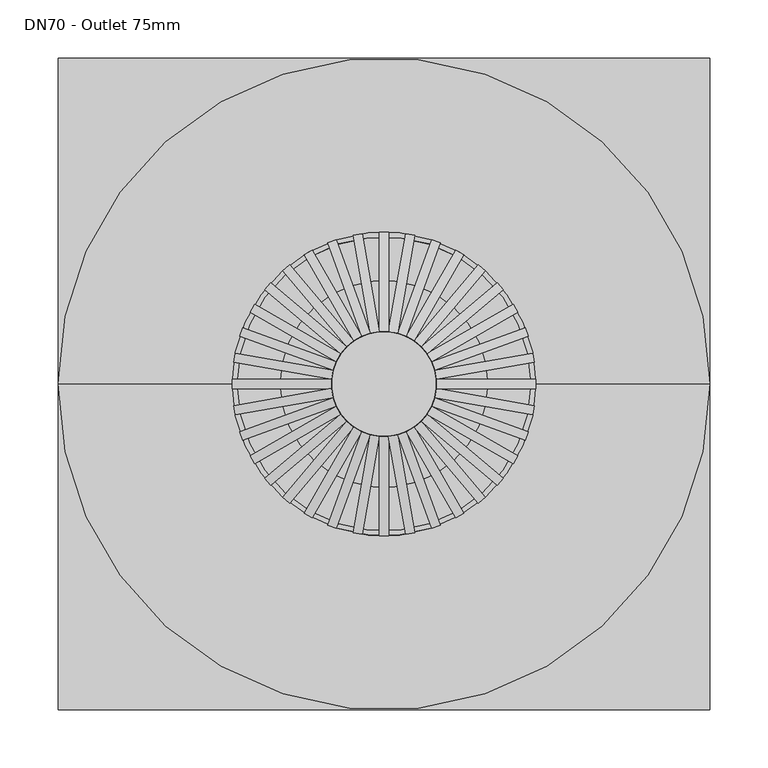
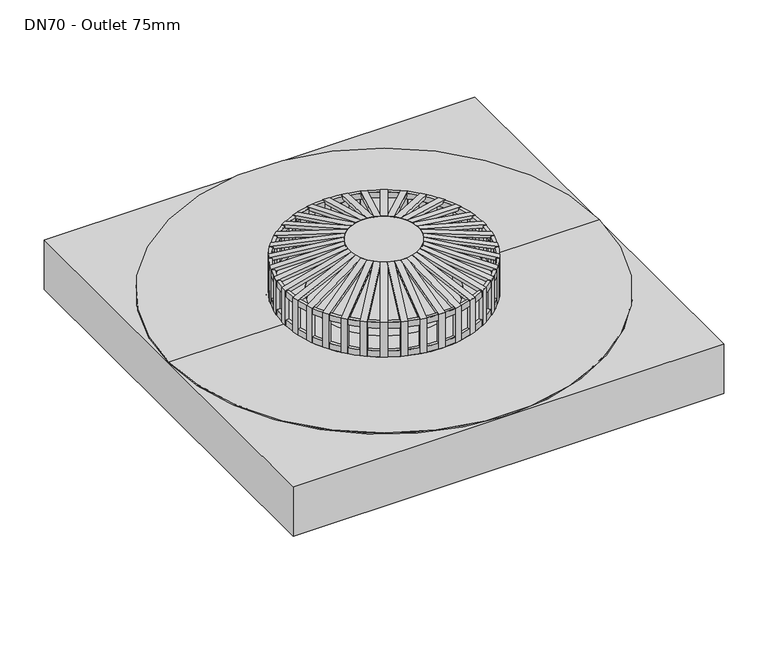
"""IFC4 building model written with IfcOpenShell, lengths in millimetres: sanitary terminal geometry, NLRS_52_PF_UN_Vacurain Flex trechter tbv PVC_Dyka : DN70 - Outlet 75mm."""

from ifc_helpers import new_model, si_unit, point, frame, origin, origin_with_axes, origin_2d, place, context, project, spatial, polyline, circle_curve, trimmed, segment, composite_curve, outline, extrude, source, transform, mapped, element, save
from ifc_brep_helpers import plane_surface, cylinder_surface, revolved_surface, advanced_brep


def dn70_outlet_75mm_724d292a(model_context):
    return source(origin(), model_context, "Body", "SolidModel", [
        advanced_brep(
        [(89.0, 0.0, -51.0), (89.0, 0.0, -24.0), (-89.0, 0.0, -24.0), (-89.0, 0.0, -51.0), (-63.25, 0.0, -51.0), (63.25, 0.0, -51.0), (-37.5, 0.0, -64.0), (37.5, 0.0, -64.0), (-37.5, 0.0, -70.0), (37.5, 0.0, -70.0), (133.5, 0.0, -24.0), (133.5, 0.0, -2.0), (-133.5, 0.0, -2.0), (-133.5, 0.0, -24.0), (280.0, 280.0, -2.0), (0.0, 280.0, -2.0), (-280.0, 280.0, -2.0), (-280.0, 0.0, -2.0), (-280.0, -280.0, -2.0), (0.0, -280.0, -2.0), (280.0, -280.0, -2.0), (280.0, 0.0, -2.0), (280.0, 280.0, -70.0), (280.0, -280.0, -70.0), (-280.0, -280.0, -70.0), (-280.0, 280.0, -70.0)],
        [
            (0, 1),
            (1, 2, circle_curve(frame((0.0, 0.0, -24.0), z_axis=(0.0, 0.0, 1.0), x_axis=(-1.0, 0.0, 0.0)), 89.0)),
            (2, 3),
            (3, 0, circle_curve(frame((0.0, 0.0, -51.0), z_axis=(0.0, 0.0, -1.0), x_axis=(-1.0, 0.0, 0.0)), 89.0)),
            (0, 3, circle_curve(frame((0.0, 0.0, -51.0), z_axis=(0.0, 0.0, -1.0), x_axis=(-1.0, 0.0, 0.0)), 89.0)),
            (2, 1, circle_curve(frame((0.0, 0.0, -24.0), z_axis=(0.0, 0.0, 1.0), x_axis=(-1.0, 0.0, 0.0)), 89.0)),
            (3, 4),
            (4, 5, circle_curve(frame((0.0, 0.0, -51.0), z_axis=(0.0, 0.0, -1.0), x_axis=(-1.0, 0.0, 0.0)), 63.25)),
            (5, 0),
            (5, 4, circle_curve(frame((0.0, 0.0, -51.0), z_axis=(0.0, 0.0, -1.0), x_axis=(-1.0, 0.0, 0.0)), 63.25)),
            (4, 6),
            (6, 7, circle_curve(frame((0.0, 0.0, -64.0), z_axis=(0.0, 0.0, -1.0), x_axis=(-1.0, 0.0, 0.0)), 37.5)),
            (7, 5),
            (7, 6, circle_curve(frame((0.0, 0.0, -64.0), z_axis=(0.0, 0.0, -1.0), x_axis=(-1.0, 0.0, 0.0)), 37.5)),
            (6, 8),
            (8, 9, circle_curve(frame((0.0, 0.0, -70.0), z_axis=(0.0, 0.0, -1.0), x_axis=(-1.0, 0.0, 0.0)), 37.5)),
            (9, 7),
            (9, 8, circle_curve(frame((0.0, 0.0, -70.0), z_axis=(0.0, 0.0, -1.0), x_axis=(-1.0, 0.0, 0.0)), 37.5)),
            (10, 11),
            (11, 12, circle_curve(frame((0.0, 0.0, -2.0), z_axis=(0.0, 0.0, 1.0), x_axis=(-1.0, 0.0, 0.0)), 133.5)),
            (12, 13),
            (13, 10, circle_curve(frame((0.0, 0.0, -24.0), z_axis=(0.0, 0.0, -1.0), x_axis=(-1.0, 0.0, 0.0)), 133.5)),
            (10, 13, circle_curve(frame((0.0, 0.0, -24.0), z_axis=(0.0, 0.0, -1.0), x_axis=(-1.0, 0.0, 0.0)), 133.5)),
            (12, 11, circle_curve(frame((0.0, 0.0, -2.0), z_axis=(0.0, 0.0, 1.0), x_axis=(-1.0, 0.0, 0.0)), 133.5)),
            (1, 10),
            (13, 2),
            (14, 15),
            (15, 16),
            (16, 17),
            (17, 18),
            (18, 19),
            (19, 20),
            (20, 21),
            (21, 14),
            (22, 23),
            (23, 24),
            (24, 25),
            (25, 22),
            (25, 16),
            (14, 22),
            (24, 18),
            (23, 20),
        ],
        [
            revolved_surface(polyline([(-89.0, 0.0, -51.0), (-89.0, 0.0, -24.0)]), (0.0, 0.0, 2214.3150031), (0.0, 0.0, -1.0)),
            plane_surface(frame((0.0, 0.0, -51.0), z_axis=(0.0, 0.0, 1.0), x_axis=(-1.0, 0.0, 0.0))),
            revolved_surface(polyline([(-37.5, 0.0, -64.0), (-63.25, 0.0, -51.0)]), (0.0, 0.0, 2214.3150031), (0.0, 0.0, -1.0)),
            revolved_surface(polyline([(-37.5, 0.0, -70.0), (-37.5, 0.0, -64.0)]), (0.0, 0.0, 2214.3150031), (0.0, 0.0, -1.0)),
            revolved_surface(polyline([(-133.5, 0.0, -24.0), (-133.5, 0.0, -2.0)]), (0.0, 0.0, 2214.3150031), (0.0, 0.0, -1.0)),
            plane_surface(frame((0.0, 0.0, -24.0), z_axis=(0.0, 0.0, 1.0), x_axis=(-1.0, 0.0, 0.0))),
            plane_surface(frame((-280.0, 280.0, -2.0), z_axis=(0.0, 0.0, 1.0), x_axis=(-1.0, 0.0, 0.0))),
            plane_surface(frame((-280.0, 280.0, -70.0), z_axis=(0.0, 0.0, -1.0), x_axis=(1.0, 0.0, 0.0))),
            plane_surface(frame((280.0, 280.0, -2.0), z_axis=(0.0, 1.0, 0.0), x_axis=(0.0, 0.0, -1.0))),
            plane_surface(frame((-280.0, 280.0, -2.0), z_axis=(-1.0, 0.0, 0.0), x_axis=(0.0, 0.0, -1.0))),
            plane_surface(frame((-280.0, -280.0, -2.0), z_axis=(0.0, -1.0, 0.0), x_axis=(0.0, 0.0, -1.0))),
            plane_surface(frame((280.0, -280.0, -2.0), z_axis=(1.0, 0.0, 0.0), x_axis=(0.0, 0.0, -1.0))),
        ],
        [
            (0, [[1, 2, 3, 4]]),
            (0, [[-1, 5, -3, 6]]),
            (1, [[-4, 7, 8, 9]]),
            (1, [[-5, -9, 10, -7]]),
            (2, [[-8, 11, 12, 13]]),
            (2, [[-10, -13, 14, -11]]),
            (3, [[-12, 15, 16, 17]]),
            (3, [[-14, -17, 18, -15]]),
            (4, [[19, 20, 21, 22]]),
            (4, [[-19, 23, -21, 24]]),
            (5, [[-2, 25, -22, 26]]),
            (5, [[-6, -26, -23, -25]]),
            (6, [[27, 28, 29, 30, 31, 32, 33, 34], [-20, -24]]),
            (7, [[35, 36, 37, 38], [-16, -18]]),
            (8, [[-38, 39, -28, -27, 40]]),
            (9, [[-37, 41, -30, -29, -39]]),
            (10, [[-36, 42, -32, -31, -41]]),
            (11, [[-35, -40, -34, -33, -42]]),
        ],
    ),
        extrude(outline(polyline([(0.0, -4.0), (0.0, 0.0), (44.2901338, 0.0), (67.144961, 82.5670868), (71.0, 81.5), (47.3333333, -4.0), (0.0, -4.0)])), frame((-120.2391971, 39.5067776, 0.0), z_axis=(0.3420201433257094, 0.9396926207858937, 0.0), x_axis=(0.0, 0.0, 1.0)), (0.0, 0.0, 1.0), 8.0),
        extrude(outline(polyline([(0.0, -4.0), (0.0, 0.0), (44.2901338, 0.0), (67.144961, 82.5670868), (71.0, 81.5), (47.3333333, -4.0), (0.0, -4.0)])), frame((-111.5522136, 59.7858984, 0.0), z_axis=(0.5000000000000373, 0.8660254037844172, 0.0), x_axis=(0.0, 0.0, 1.0)), (0.0, 0.0, 1.0), 8.0),
        extrude(outline(polyline([(0.0, -4.0), (0.0, 0.0), (44.2901338, 0.0), (67.144961, 82.5670868), (71.0, 81.5), (47.3333333, -4.0), (0.0, -4.0)])), frame((-99.4757725, 78.2484549, 0.0), z_axis=(0.6427876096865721, 0.7660444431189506, 0.0), x_axis=(0.0, 0.0, 1.0)), (0.0, 0.0, 1.0), 8.0),
        extrude(outline(polyline([(0.0, -4.0), (0.0, 0.0), (44.2901338, 0.0), (67.144961, 82.5670868), (71.0, 81.5), (47.3333333, -4.0), (0.0, -4.0)])), frame((-84.3768104, 94.3334716, 0.0), z_axis=(0.7660444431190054, 0.6427876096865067, 0.0), x_axis=(0.0, 0.0, 1.0)), (0.0, 0.0, 1.0), 8.0),
        extrude(outline(polyline([(0.0, -4.0), (0.0, 0.0), (44.2901338, 0.0), (67.144961, 82.5670868), (71.0, 81.5), (47.3333333, -4.0), (0.0, -4.0)])), frame((-66.7141016, 107.5522136, 0.0), z_axis=(0.8660254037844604, 0.49999999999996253, 0.0), x_axis=(0.0, 0.0, 1.0)), (0.0, 0.0, 1.0), 8.0),
        extrude(outline(polyline([(0.0, -3.9999999), (0.0, 0.0), (44.2901338, 0.0), (67.144961, 82.5670868), (71.0, 81.5), (47.3333333, -3.9999999), (0.0, -3.9999999)])), frame((-47.0243186, 117.503036, 0.0), z_axis=(0.9396926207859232, 0.34202014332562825, 0.0), x_axis=(0.0, 0.0, 1.0)), (0.0, 0.0, 1.0), 8.0),
        extrude(outline(polyline([(0.0, -4.0000001), (0.0, 0.0), (44.2901338, 0.0), (67.144961, 82.5670868), (71.0, 81.4999999), (47.3333333, -4.0000001), (0.0, -4.0000001)])), frame((-25.9057255, 123.883588, 0.0), z_axis=(0.9848077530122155, 0.17364817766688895, 0.0), x_axis=(0.0, 0.0, 1.0)), (0.0, 0.0, 1.0), 8.0),
        extrude(outline(polyline([(130.5, 0.0), (126.5, 0.0), (126.5, 44.2901338), (43.9329132, 67.144961), (45.0, 71.0), (130.5, 47.3333333), (130.5, 0.0)])), frame((-4.0, 0.0, 0.0), z_axis=(1.0, 0.0, 0.0), x_axis=(0.0, 1.0, 0.0)), (0.0, 0.0, 1.0), 8.0),
        extrude(outline(polyline([(0.0, -4.0000001), (0.0, 0.0), (47.3333333, 0.0), (71.0, -85.5), (67.144961, -86.5670869), (44.2901338, -4.0000001), (0.0, -4.0000001)])), frame((26.6003182, 127.8228191, 0.0), z_axis=(-0.9848077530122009, 0.1736481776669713, 0.0), x_axis=(0.0, 0.0, 1.0)), (0.0, 0.0, 1.0), 8.0),
        extrude(outline(polyline([(0.0, -3.9999999), (0.0, 0.0), (47.3333333, 0.0), (71.0, -85.4999999), (67.144961, -86.5670868), (44.2901338, -3.9999999), (0.0, -3.9999999)])), frame((48.3923992, 121.2618064, 0.0), z_axis=(-0.9396926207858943, 0.3420201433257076, 0.0), x_axis=(0.0, 0.0, 1.0)), (0.0, 0.0, 1.0), 8.0),
        extrude(outline(polyline([(0.0, -4.0), (0.0, 0.0), (47.3333333, 0.0), (71.0, -85.5), (67.144961, -86.5670868), (44.2901338, -4.0), (0.0, -4.0)])), frame((68.7141016, 111.0163152, 0.0), z_axis=(-0.8660254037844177, 0.5000000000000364, 0.0), x_axis=(0.0, 0.0, 1.0)), (0.0, 0.0, 1.0), 8.0),
        extrude(outline(polyline([(0.0, -4.0), (0.0, 0.0), (47.3333333, 0.0), (71.0, -85.5), (67.144961, -86.5670868), (44.2901338, -4.0), (0.0, -4.0)])), frame((86.9479608, 97.3976494, 0.0), z_axis=(-0.7660444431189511, 0.6427876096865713, 0.0), x_axis=(0.0, 0.0, 1.0)), (0.0, 0.0, 1.0), 8.0),
        extrude(outline(polyline([(0.0, -4.0), (0.0, 0.0), (47.3333333, 0.0), (71.0, -85.5), (67.144961, -86.5670868), (44.2901338, -4.0), (0.0, -4.0)])), frame((102.5399503, 80.8196053, 0.0), z_axis=(-0.642787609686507, 0.7660444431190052, 0.0), x_axis=(0.0, 0.0, 1.0)), (0.0, 0.0, 1.0), 8.0),
        extrude(outline(polyline([(0.0, -4.0), (0.0, 0.0), (47.3333333, 0.0), (71.0, -85.5), (67.144961, -86.5670868), (44.2901338, -4.0), (0.0, -4.0)])), frame((115.0163152, 61.7858984, 0.0), z_axis=(-0.4999999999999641, 0.8660254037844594, 0.0), x_axis=(0.0, 0.0, 1.0)), (0.0, 0.0, 1.0), 8.0),
        extrude(outline(polyline([(0.0, -4.0), (0.0, 0.0), (47.3333333, 0.0), (71.0, -85.5), (67.144961, -86.5670868), (44.2901338, -4.0), (0.0, -4.0)])), frame((123.9979676, 40.8748582, 0.0), z_axis=(-0.3420201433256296, 0.9396926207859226, 0.0), x_axis=(0.0, 0.0, 1.0)), (0.0, 0.0, 1.0), 8.0),
        extrude(outline(polyline([(0.0, -4.0), (0.0, 0.0), (47.3333333, 0.0), (71.0, -85.5), (67.144961, -86.5670869), (44.2901338, -4.0), (0.0, -4.0)])), frame((129.2120045, 18.7218562, 0.0), z_axis=(-0.17364817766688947, 0.9848077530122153, 0.0), x_axis=(0.0, 0.0, 1.0)), (0.0, 0.0, 1.0), 8.0),
        extrude(outline(polyline([(0.0, 126.5), (0.0, 130.5), (47.3333333, 130.5), (71.0, 45.0), (67.144961, 43.9329132), (44.2901338, 126.5), (0.0, 126.5)])), frame((0.0, -4.0, 0.0), z_axis=(0.0, 1.0, 0.0), x_axis=(0.0, 0.0, 1.0)), (0.0, 0.0, 1.0), 8.0),
        extrude(outline(polyline([(0.0, -4.0000001), (0.0, 0.0), (47.3333333, 0.0), (71.0, -85.5), (67.144961, -86.5670869), (44.2901338, -4.0000001), (0.0, -4.0000001)])), frame((127.8228191, -26.6003182, 0.0), z_axis=(0.17364817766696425, 0.9848077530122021, 0.0), x_axis=(0.0, 0.0, 1.0)), (0.0, 0.0, 1.0), 8.0),
        extrude(outline(polyline([(0.0, -3.9999999), (0.0, 0.0), (47.3333333, 0.0), (71.0, -85.4999999), (67.144961, -86.5670868), (44.2901338, -3.9999999), (0.0, -3.9999999)])), frame((121.2618064, -48.3923992, 0.0), z_axis=(0.3420201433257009, 0.9396926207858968, 0.0), x_axis=(0.0, 0.0, 1.0)), (0.0, 0.0, 1.0), 8.0),
        extrude(outline(polyline([(0.0, -4.0), (0.0, 0.0), (47.3333333, 0.0), (71.0, -85.5), (67.144961, -86.5670868), (44.2901338, -4.0), (0.0, -4.0)])), frame((111.0163152, -68.7141016, 0.0), z_axis=(0.5000000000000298, 0.8660254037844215, 0.0), x_axis=(0.0, 0.0, 1.0)), (0.0, 0.0, 1.0), 8.0),
        extrude(outline(polyline([(0.0, -4.0), (0.0, 0.0), (47.3333333, 0.0), (71.0, -85.5), (67.144961, -86.5670868), (44.2901338, -4.0), (0.0, -4.0)])), frame((97.3976494, -86.9479608, 0.0), z_axis=(0.6427876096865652, 0.7660444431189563, 0.0), x_axis=(0.0, 0.0, 1.0)), (0.0, 0.0, 1.0), 8.0),
        extrude(outline(polyline([(0.0, -4.0), (0.0, 0.0), (47.3333333, 0.0), (71.0, -85.5), (67.144961, -86.5670868), (44.2901338, -4.0), (0.0, -4.0)])), frame((80.8196053, -102.5399503, 0.0), z_axis=(0.7660444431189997, 0.6427876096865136, 0.0), x_axis=(0.0, 0.0, 1.0)), (0.0, 0.0, 1.0), 8.0),
        extrude(outline(polyline([(0.0, -4.0), (0.0, 0.0), (47.3333333, 0.0), (71.0, -85.5), (67.144961, -86.5670868), (44.2901338, -4.0), (0.0, -4.0)])), frame((61.7858984, -115.0163152, 0.0), z_axis=(0.8660254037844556, 0.49999999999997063, 0.0), x_axis=(0.0, 0.0, 1.0)), (0.0, 0.0, 1.0), 8.0),
        extrude(outline(polyline([(0.0, -4.0), (0.0, 0.0), (47.3333333, 0.0), (71.0, -85.5), (67.144961, -86.5670868), (44.2901338, -4.0), (0.0, -4.0)])), frame((40.8748582, -123.9979676, 0.0), z_axis=(0.93969262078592, 0.3420201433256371, 0.0), x_axis=(0.0, 0.0, 1.0)), (0.0, 0.0, 1.0), 8.0),
        extrude(outline(polyline([(0.0, -4.0), (0.0, 0.0), (47.3333333, 0.0), (71.0, -85.5), (67.144961, -86.5670869), (44.2901338, -4.0), (0.0, -4.0)])), frame((18.7218562, -129.2120045, 0.0), z_axis=(0.9848077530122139, 0.1736481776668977, 0.0), x_axis=(0.0, 0.0, 1.0)), (0.0, 0.0, 1.0), 8.0),
        extrude(outline(polyline([(-126.5, 0.0), (-130.5, 0.0), (-130.5, 47.3333333), (-45.0, 71.0), (-43.9329132, 67.144961), (-126.5, 44.2901338), (-126.5, 0.0)])), frame((-4.0, 0.0, 0.0), z_axis=(1.0, 0.0, 0.0), x_axis=(0.0, 1.0, 0.0)), (0.0, 0.0, 1.0), 8.0),
        extrude(outline(polyline([(0.0, -4.0), (0.0, 0.0), (44.2901338, 0.0), (67.144961, 82.5670869), (71.0, 81.5), (47.3333333, -4.0), (0.0, -4.0)])), frame((-18.0272635, -125.2727735, 0.0), z_axis=(-0.9848077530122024, 0.1736481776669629, 0.0), x_axis=(0.0, 0.0, 1.0)), (0.0, 0.0, 1.0), 8.0),
        extrude(outline(polyline([(0.0, -4.0), (0.0, 0.0), (44.2901338, 0.0), (67.144961, 82.5670868), (71.0, 81.5), (47.3333333, -4.0), (0.0, -4.0)])), frame((-39.5067776, -120.2391971, 0.0), z_axis=(-0.9396926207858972, 0.3420201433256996, 0.0), x_axis=(0.0, 0.0, 1.0)), (0.0, 0.0, 1.0), 8.0),
        extrude(outline(polyline([(0.0, -4.0), (0.0, 0.0), (44.2901338, 0.0), (67.144961, 82.5670868), (71.0, 81.5), (47.3333333, -4.0), (0.0, -4.0)])), frame((-59.7858984, -111.5522136, 0.0), z_axis=(-0.8660254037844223, 0.5000000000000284, 0.0), x_axis=(0.0, 0.0, 1.0)), (0.0, 0.0, 1.0), 8.0),
        extrude(outline(polyline([(0.0, -4.0), (0.0, 0.0), (44.2901338, 0.0), (67.144961, 82.5670868), (71.0, 81.5), (47.3333333, -4.0), (0.0, -4.0)])), frame((-78.2484549, -99.4757725, 0.0), z_axis=(-0.7660444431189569, 0.6427876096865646, 0.0), x_axis=(0.0, 0.0, 1.0)), (0.0, 0.0, 1.0), 8.0),
        extrude(outline(polyline([(0.0, -4.0), (0.0, 0.0), (44.2901338, 0.0), (67.144961, 82.5670868), (71.0, 81.5), (47.3333333, -4.0), (0.0, -4.0)])), frame((-94.3334716, -84.3768104, 0.0), z_axis=(-0.6427876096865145, 0.7660444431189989, 0.0), x_axis=(0.0, 0.0, 1.0)), (0.0, 0.0, 1.0), 8.0),
        extrude(outline(polyline([(0.0, -4.0), (0.0, 0.0), (44.2901338, 0.0), (67.144961, 82.5670868), (71.0, 81.5), (47.3333333, -4.0), (0.0, -4.0)])), frame((-107.5522136, -66.7141016, 0.0), z_axis=(-0.499999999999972, 0.8660254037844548, 0.0), x_axis=(0.0, 0.0, 1.0)), (0.0, 0.0, 1.0), 8.0),
        extrude(outline(polyline([(0.0, -3.9999999), (0.0, 0.0), (44.2901338, 0.0), (67.144961, 82.5670868), (71.0, 81.5), (47.3333333, -3.9999999), (0.0, -3.9999999)])), frame((-117.503036, -47.0243186, 0.0), z_axis=(-0.34202014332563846, 0.9396926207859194, 0.0), x_axis=(0.0, 0.0, 1.0)), (0.0, 0.0, 1.0), 8.0),
        extrude(outline(polyline([(0.0, -4.0000001), (0.0, 0.0), (44.2901338, 0.0), (67.144961, 82.5670868), (71.0, 81.4999999), (47.3333333, -4.0000001), (0.0, -4.0000001)])), frame((-123.883588, -25.9057255, 0.0), z_axis=(-0.1736481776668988, 0.9848077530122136, 0.0), x_axis=(0.0, 0.0, 1.0)), (0.0, 0.0, 1.0), 8.0),
        extrude(outline(polyline([(0.0, -4.0), (0.0, 0.0), (44.2901338, 0.0), (67.144961, 82.5670869), (71.0, 81.5), (47.3333333, -4.0), (0.0, -4.0)])), frame((-125.2727735, 18.0272635, 0.0), z_axis=(0.17364817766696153, 0.9848077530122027, 0.0), x_axis=(0.0, 0.0, 1.0)), (0.0, 0.0, 1.0), 8.0),
        extrude(outline(polyline([(0.0, -130.5), (0.0, -126.5), (44.2901338, -126.5), (67.144961, -43.9329132), (71.0, -45.0), (47.3333333, -130.5), (0.0, -130.5)])), frame((0.0, -4.0, 0.0), z_axis=(0.0, 1.0, 0.0), x_axis=(0.0, 0.0, 1.0)), (0.0, 0.0, 1.0), 8.0),
        extrude(outline(composite_curve([segment(trimmed(circle_curve(origin_2d(), 45.0), [point((-45.0, 0.0))], [point((45.0, 0.0))], False, "CARTESIAN"), True, "CONTINUOUS"), segment(trimmed(circle_curve(origin_2d(), 45.0), [point((45.0, 0.0))], [point((-45.0, 0.0))], False, "CARTESIAN"), True, "CONTINUOUS")], self_intersect=False)), frame((0.0, 0.0, 63.0), z_axis=(0.0, 0.0, 1.0), x_axis=(1.0, 0.0, 0.0)), (0.0, 0.0, 1.0), 8.0),
        advanced_brep(
        [(-130.5, 0.0, 0.0), (130.5, 0.0, 0.0), (126.5, 0.0, 0.0), (-126.5, 0.0, 0.0), (-130.5, 0.0, 8.0), (130.5, 0.0, 8.0), (-126.5, 0.0, 8.0), (126.5, 0.0, 8.0)],
        [
            (0, 1, circle_curve(frame((0.0, 0.0, 0.0), z_axis=(0.0, 0.0, -1.0), x_axis=(1.0, 0.0, 0.0)), 130.5)),
            (1, 2),
            (2, 3, circle_curve(origin_with_axes(), 126.5)),
            (3, 0),
            (1, 0, circle_curve(frame((0.0, 0.0, 0.0), z_axis=(0.0, 0.0, -1.0), x_axis=(1.0, 0.0, 0.0)), 130.5)),
            (3, 2, circle_curve(origin_with_axes(), 126.5)),
            (4, 5, circle_curve(frame((0.0, 0.0, 8.0), z_axis=(0.0, 0.0, -1.0), x_axis=(1.0, 0.0, 0.0)), 130.5)),
            (5, 1),
            (0, 4),
            (5, 4, circle_curve(frame((0.0, 0.0, 8.0), z_axis=(0.0, 0.0, -1.0), x_axis=(1.0, 0.0, 0.0)), 130.5)),
            (6, 7, circle_curve(frame((0.0, 0.0, 8.0), z_axis=(0.0, 0.0, -1.0), x_axis=(1.0, 0.0, 0.0)), 126.5)),
            (7, 5),
            (4, 6),
            (7, 6, circle_curve(frame((0.0, 0.0, 8.0), z_axis=(0.0, 0.0, -1.0), x_axis=(1.0, 0.0, 0.0)), 126.5)),
            (2, 7),
            (6, 3),
        ],
        [
            plane_surface(frame((0.0, 0.0, 0.0), z_axis=(0.0, 0.0, -1.0), x_axis=(1.0, 0.0, 0.0))),
            cylinder_surface(frame((0.0, 0.0, 2214.3150031), z_axis=(0.0, 0.0, 1.0), x_axis=(1.0, 0.0, 0.0)), 130.5),
            plane_surface(frame((0.0, 0.0, 8.0), z_axis=(0.0, 0.0, 1.0), x_axis=(1.0, 0.0, 0.0))),
            revolved_surface(polyline([(126.5, 0.0, 8.0), (126.5, 0.0, 0.0)]), (0.0, 0.0, 2214.3150031), (0.0, 0.0, 1.0)),
        ],
        [
            (0, [[1, 2, 3, 4]]),
            (0, [[5, -4, 6, -2]]),
            (1, [[7, 8, -1, 9]]),
            (1, [[10, -9, -5, -8]]),
            (2, [[11, 12, -7, 13]]),
            (2, [[14, -13, -10, -12]]),
            (3, [[-3, 15, -11, 16]]),
            (3, [[-6, -16, -14, -15]]),
        ],
    ),
        advanced_brep(
        [(-130.5, 0.0, 39.3333333), (130.5, 0.0, 39.3333333), (126.5, 0.0, 39.3333333), (-126.5, 0.0, 39.3333333), (-130.5, 0.0, 47.3333333), (130.5, 0.0, 47.3333333), (-126.5, 0.0, 47.3333333), (126.5, 0.0, 47.3333333)],
        [
            (0, 1, circle_curve(frame((0.0, 0.0, 39.3333333), z_axis=(0.0, 0.0, -1.0), x_axis=(1.0, 0.0, 0.0)), 130.5)),
            (1, 2),
            (2, 3, circle_curve(frame((0.0, 0.0, 39.3333333), z_axis=(0.0, 0.0, 1.0), x_axis=(1.0, 0.0, 0.0)), 126.5)),
            (3, 0),
            (1, 0, circle_curve(frame((0.0, 0.0, 39.3333333), z_axis=(0.0, 0.0, -1.0), x_axis=(1.0, 0.0, 0.0)), 130.5)),
            (3, 2, circle_curve(frame((0.0, 0.0, 39.3333333), z_axis=(0.0, 0.0, 1.0), x_axis=(1.0, 0.0, 0.0)), 126.5)),
            (4, 5, circle_curve(frame((0.0, 0.0, 47.3333333), z_axis=(0.0, 0.0, -1.0), x_axis=(1.0, 0.0, 0.0)), 130.5)),
            (5, 1),
            (0, 4),
            (5, 4, circle_curve(frame((0.0, 0.0, 47.3333333), z_axis=(0.0, 0.0, -1.0), x_axis=(1.0, 0.0, 0.0)), 130.5)),
            (6, 7, circle_curve(frame((0.0, 0.0, 47.3333333), z_axis=(0.0, 0.0, -1.0), x_axis=(1.0, 0.0, 0.0)), 126.5)),
            (7, 5),
            (4, 6),
            (7, 6, circle_curve(frame((0.0, 0.0, 47.3333333), z_axis=(0.0, 0.0, -1.0), x_axis=(1.0, 0.0, 0.0)), 126.5)),
            (2, 7),
            (6, 3),
        ],
        [
            plane_surface(frame((0.0, 0.0, 39.3333333), z_axis=(0.0, 0.0, -1.0), x_axis=(1.0, 0.0, 0.0))),
            cylinder_surface(frame((0.0, 0.0, 2214.3150031), z_axis=(0.0, 0.0, 1.0), x_axis=(1.0, 0.0, 0.0)), 130.5),
            plane_surface(frame((0.0, 0.0, 47.3333333), z_axis=(0.0, 0.0, 1.0), x_axis=(1.0, 0.0, 0.0))),
            revolved_surface(polyline([(126.5, 0.0, 47.33333330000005), (126.5, 0.0, 39.33333330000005)]), (0.0, 0.0, 2214.3150031), (0.0, 0.0, 1.0)),
        ],
        [
            (0, [[1, 2, 3, 4]]),
            (0, [[5, -4, 6, -2]]),
            (1, [[7, 8, -1, 9]]),
            (1, [[10, -9, -5, -8]]),
            (2, [[11, 12, -7, 13]]),
            (2, [[14, -13, -10, -12]]),
            (3, [[-3, 15, -11, 16]]),
            (3, [[-6, -16, -14, -15]]),
        ],
    ),
        extrude(outline(composite_curve([segment(trimmed(circle_curve(origin_2d(), 130.5), [point((-130.5, 0.0))], [point((130.5, 0.0))], False, "CARTESIAN"), True, "CONTINUOUS"), segment(trimmed(circle_curve(origin_2d(), 130.5), [point((130.5, 0.0))], [point((-130.5, 0.0))], False, "CARTESIAN"), True, "CONTINUOUS")], self_intersect=False), holes=[composite_curve([segment(trimmed(circle_curve(origin_2d(), 89.0), [point((-89.0, 0.0))], [point((89.0, 0.0))], True, "CARTESIAN"), True, "CONTINUOUS"), segment(trimmed(circle_curve(origin_2d(), 89.0), [point((89.0, 0.0))], [point((-89.0, 0.0))], True, "CARTESIAN"), True, "CONTINUOUS")], self_intersect=False)]), frame((0.0, 0.0, -23.0), z_axis=(0.0, 0.0, 1.0), x_axis=(1.0, 0.0, 0.0)), (0.0, 0.0, 1.0), 23.0),
        advanced_brep(
        [(280.0, 0.0, 0.0), (-280.0, 0.0, 0.0), (-130.5, 0.0, 0.0), (130.5, 0.0, 0.0), (89.0, 0.0, -51.0), (-89.0, 0.0, -51.0), (-89.0, 0.0, -24.0), (89.0, 0.0, -24.0), (63.25, 0.0, -51.0), (-63.25, 0.0, -51.0), (37.5, 0.0, -64.0), (-37.5, 0.0, -64.0), (37.5, 0.0, -161.0), (-37.5, 0.0, -161.0), (0.0, 0.0, -161.0), (-105.1648088, 41.9038358, -4.0), (-97.1648088, 41.9038358, -4.0), (-105.1648088, -41.9038358, -4.0), (-97.1648088, -41.9038358, -4.0), (97.1648088, 41.9038358, -4.0), (105.1648088, 41.9038358, -4.0), (97.1648088, -41.9038358, -4.0), (105.1648088, -41.9038358, -4.0), (-45.9038358, -101.1648088, -4.0), (-37.9038358, -101.1648088, -4.0), (37.9038358, -101.1648088, -4.0), (45.9038358, -101.1648088, -4.0), (-45.9038358, 101.1648088, -4.0), (-37.9038358, 101.1648088, -4.0), (37.9038358, 101.1648088, -4.0), (45.9038358, 101.1648088, -4.0), (-105.1648088, 41.9038358, -23.0), (-97.1648088, 41.9038358, -23.0), (-105.1648088, -41.9038358, -23.0), (-97.1648088, -41.9038358, -23.0), (97.1648088, 41.9038358, -23.0), (105.1648088, 41.9038358, -23.0), (97.1648088, -41.9038358, -23.0), (105.1648088, -41.9038358, -23.0), (-45.9038358, -101.1648088, -23.0), (-37.9038358, -101.1648088, -23.0), (37.9038358, -101.1648088, -23.0), (45.9038358, -101.1648088, -23.0), (-45.9038358, 101.1648088, -23.0), (-37.9038358, 101.1648088, -23.0), (37.9038358, 101.1648088, -23.0), (45.9038358, 101.1648088, -23.0), (133.5, 0.0, -24.0), (-133.5, 0.0, -24.0), (-133.5, 0.0, -2.0), (133.5, 0.0, -2.0), (280.0, 0.0, -2.0), (-280.0, 0.0, -2.0), (-130.5, 0.0, -23.0), (130.5, 0.0, -23.0)],
        [
            (0, 1, circle_curve(frame((0.0, 0.0, 0.0), z_axis=(0.0, 0.0, 1.0), x_axis=(-1.0, 0.0, 0.0)), 280.0)),
            (1, 2),
            (2, 3, circle_curve(frame((0.0, 0.0, 0.0), z_axis=(0.0, 0.0, -1.0), x_axis=(1.0, 0.0, 0.0)), 130.5)),
            (3, 0),
            (1, 0, circle_curve(frame((0.0, 0.0, 0.0), z_axis=(0.0, 0.0, 1.0), x_axis=(-1.0, 0.0, 0.0)), 280.0)),
            (3, 2, circle_curve(frame((0.0, 0.0, 0.0), z_axis=(0.0, 0.0, -1.0), x_axis=(1.0, 0.0, 0.0)), 130.5)),
            (4, 5, circle_curve(frame((0.0, 0.0, -51.0), z_axis=(0.0, 0.0, 1.0), x_axis=(-1.0, 0.0, 0.0)), 89.0)),
            (5, 6),
            (6, 7, circle_curve(frame((0.0, 0.0, -24.0), z_axis=(0.0, 0.0, -1.0), x_axis=(-1.0, 0.0, 0.0)), 89.0)),
            (7, 4),
            (5, 4, circle_curve(frame((0.0, 0.0, -51.0), z_axis=(0.0, 0.0, 1.0), x_axis=(-1.0, 0.0, 0.0)), 89.0)),
            (7, 6, circle_curve(frame((0.0, 0.0, -24.0), z_axis=(0.0, 0.0, -1.0), x_axis=(-1.0, 0.0, 0.0)), 89.0)),
            (4, 8),
            (8, 9, circle_curve(frame((0.0, 0.0, -51.0), z_axis=(0.0, 0.0, 1.0), x_axis=(-1.0, 0.0, 0.0)), 63.25)),
            (9, 5),
            (9, 8, circle_curve(frame((0.0, 0.0, -51.0), z_axis=(0.0, 0.0, 1.0), x_axis=(-1.0, 0.0, 0.0)), 63.25)),
            (8, 10),
            (10, 11, circle_curve(frame((0.0, 0.0, -64.0), z_axis=(0.0, 0.0, 1.0), x_axis=(-1.0, 0.0, 0.0)), 37.5)),
            (11, 9),
            (11, 10, circle_curve(frame((0.0, 0.0, -64.0), z_axis=(0.0, 0.0, 1.0), x_axis=(-1.0, 0.0, 0.0)), 37.5)),
            (10, 12),
            (12, 13, circle_curve(frame((0.0, 0.0, -161.0), z_axis=(0.0, 0.0, 1.0), x_axis=(-1.0, 0.0, 0.0)), 37.5)),
            (13, 11),
            (13, 12, circle_curve(frame((0.0, 0.0, -161.0), z_axis=(0.0, 0.0, 1.0), x_axis=(-1.0, 0.0, 0.0)), 37.5)),
            (12, 14),
            (14, 13),
            (15, 16, circle_curve(frame((-101.1648088, 41.9038358, -4.0), z_axis=(0.0, 0.0, 1.0), x_axis=(1.0, 0.0, 0.0)), 4.0)),
            (16, 15, circle_curve(frame((-101.1648088, 41.9038358, -4.0), z_axis=(0.0, 0.0, 1.0), x_axis=(1.0, 0.0, 0.0)), 4.0)),
            (17, 18, circle_curve(frame((-101.1648088, -41.9038358, -4.0), z_axis=(0.0, 0.0, 1.0), x_axis=(1.0, 0.0, 0.0)), 4.0)),
            (18, 17, circle_curve(frame((-101.1648088, -41.9038358, -4.0), z_axis=(0.0, 0.0, 1.0), x_axis=(1.0, 0.0, 0.0)), 4.0)),
            (19, 20, circle_curve(frame((101.1648088, 41.9038358, -4.0), z_axis=(0.0, 0.0, 1.0), x_axis=(1.0, 0.0, 0.0)), 4.0)),
            (20, 19, circle_curve(frame((101.1648088, 41.9038358, -4.0), z_axis=(0.0, 0.0, 1.0), x_axis=(1.0, 0.0, 0.0)), 4.0)),
            (21, 22, circle_curve(frame((101.1648088, -41.9038358, -4.0), z_axis=(0.0, 0.0, 1.0), x_axis=(1.0, 0.0, 0.0)), 4.0)),
            (22, 21, circle_curve(frame((101.1648088, -41.9038358, -4.0), z_axis=(0.0, 0.0, 1.0), x_axis=(1.0, 0.0, 0.0)), 4.0)),
            (23, 24, circle_curve(frame((-41.9038358, -101.1648088, -4.0), z_axis=(0.0, 0.0, 1.0), x_axis=(1.0, 0.0, 0.0)), 4.0)),
            (24, 23, circle_curve(frame((-41.9038358, -101.1648088, -4.0), z_axis=(0.0, 0.0, 1.0), x_axis=(1.0, 0.0, 0.0)), 4.0)),
            (25, 26, circle_curve(frame((41.9038358, -101.1648088, -4.0), z_axis=(0.0, 0.0, 1.0), x_axis=(1.0, 0.0, 0.0)), 4.0)),
            (26, 25, circle_curve(frame((41.9038358, -101.1648088, -4.0), z_axis=(0.0, 0.0, 1.0), x_axis=(1.0, 0.0, 0.0)), 4.0)),
            (27, 28, circle_curve(frame((-41.9038358, 101.1648088, -4.0), z_axis=(0.0, 0.0, 1.0), x_axis=(1.0, 0.0, 0.0)), 4.0)),
            (28, 27, circle_curve(frame((-41.9038358, 101.1648088, -4.0), z_axis=(0.0, 0.0, 1.0), x_axis=(1.0, 0.0, 0.0)), 4.0)),
            (29, 30, circle_curve(frame((41.9038358, 101.1648088, -4.0), z_axis=(0.0, 0.0, 1.0), x_axis=(1.0, 0.0, 0.0)), 4.0)),
            (30, 29, circle_curve(frame((41.9038358, 101.1648088, -4.0), z_axis=(0.0, 0.0, 1.0), x_axis=(1.0, 0.0, 0.0)), 4.0)),
            (15, 31),
            (31, 32, circle_curve(frame((-101.1648088, 41.9038358, -23.0), z_axis=(0.0, 0.0, 1.0), x_axis=(1.0, 0.0, 0.0)), 4.0)),
            (32, 16),
            (32, 31, circle_curve(frame((-101.1648088, 41.9038358, -23.0), z_axis=(0.0, 0.0, 1.0), x_axis=(1.0, 0.0, 0.0)), 4.0)),
            (17, 33),
            (33, 34, circle_curve(frame((-101.1648088, -41.9038358, -23.0), z_axis=(0.0, 0.0, 1.0), x_axis=(1.0, 0.0, 0.0)), 4.0)),
            (34, 18),
            (34, 33, circle_curve(frame((-101.1648088, -41.9038358, -23.0), z_axis=(0.0, 0.0, 1.0), x_axis=(1.0, 0.0, 0.0)), 4.0)),
            (19, 35),
            (35, 36, circle_curve(frame((101.1648088, 41.9038358, -23.0), z_axis=(0.0, 0.0, 1.0), x_axis=(1.0, 0.0, 0.0)), 4.0)),
            (36, 20),
            (36, 35, circle_curve(frame((101.1648088, 41.9038358, -23.0), z_axis=(0.0, 0.0, 1.0), x_axis=(1.0, 0.0, 0.0)), 4.0)),
            (21, 37),
            (37, 38, circle_curve(frame((101.1648088, -41.9038358, -23.0), z_axis=(0.0, 0.0, 1.0), x_axis=(1.0, 0.0, 0.0)), 4.0)),
            (38, 22),
            (38, 37, circle_curve(frame((101.1648088, -41.9038358, -23.0), z_axis=(0.0, 0.0, 1.0), x_axis=(1.0, 0.0, 0.0)), 4.0)),
            (23, 39),
            (39, 40, circle_curve(frame((-41.9038358, -101.1648088, -23.0), z_axis=(0.0, 0.0, 1.0), x_axis=(1.0, 0.0, 0.0)), 4.0)),
            (40, 24),
            (40, 39, circle_curve(frame((-41.9038358, -101.1648088, -23.0), z_axis=(0.0, 0.0, 1.0), x_axis=(1.0, 0.0, 0.0)), 4.0)),
            (25, 41),
            (41, 42, circle_curve(frame((41.9038358, -101.1648088, -23.0), z_axis=(0.0, 0.0, 1.0), x_axis=(1.0, 0.0, 0.0)), 4.0)),
            (42, 26),
            (42, 41, circle_curve(frame((41.9038358, -101.1648088, -23.0), z_axis=(0.0, 0.0, 1.0), x_axis=(1.0, 0.0, 0.0)), 4.0)),
            (27, 43),
            (43, 44, circle_curve(frame((-41.9038358, 101.1648088, -23.0), z_axis=(0.0, 0.0, 1.0), x_axis=(1.0, 0.0, 0.0)), 4.0)),
            (44, 28),
            (44, 43, circle_curve(frame((-41.9038358, 101.1648088, -23.0), z_axis=(0.0, 0.0, 1.0), x_axis=(1.0, 0.0, 0.0)), 4.0)),
            (29, 45),
            (45, 46, circle_curve(frame((41.9038358, 101.1648088, -23.0), z_axis=(0.0, 0.0, 1.0), x_axis=(1.0, 0.0, 0.0)), 4.0)),
            (46, 30),
            (46, 45, circle_curve(frame((41.9038358, 101.1648088, -23.0), z_axis=(0.0, 0.0, 1.0), x_axis=(1.0, 0.0, 0.0)), 4.0)),
            (47, 48, circle_curve(frame((0.0, 0.0, -24.0), z_axis=(0.0, 0.0, 1.0), x_axis=(-1.0, 0.0, 0.0)), 133.5)),
            (48, 49),
            (49, 50, circle_curve(frame((0.0, 0.0, -2.0), z_axis=(0.0, 0.0, -1.0), x_axis=(-1.0, 0.0, 0.0)), 133.5)),
            (50, 47),
            (48, 47, circle_curve(frame((0.0, 0.0, -24.0), z_axis=(0.0, 0.0, 1.0), x_axis=(-1.0, 0.0, 0.0)), 133.5)),
            (50, 49, circle_curve(frame((0.0, 0.0, -2.0), z_axis=(0.0, 0.0, -1.0), x_axis=(-1.0, 0.0, 0.0)), 133.5)),
            (6, 48),
            (47, 7),
            (0, 51),
            (51, 52, circle_curve(frame((0.0, 0.0, -2.0), z_axis=(0.0, 0.0, 1.0), x_axis=(-1.0, 0.0, 0.0)), 280.0)),
            (52, 1),
            (52, 51, circle_curve(frame((0.0, 0.0, -2.0), z_axis=(0.0, 0.0, 1.0), x_axis=(-1.0, 0.0, 0.0)), 280.0)),
            (49, 52),
            (51, 50),
            (53, 54, circle_curve(frame((0.0, 0.0, -23.0), z_axis=(0.0, 0.0, 1.0), x_axis=(1.0, 0.0, 0.0)), 130.5)),
            (54, 53, circle_curve(frame((0.0, 0.0, -23.0), z_axis=(0.0, 0.0, 1.0), x_axis=(1.0, 0.0, 0.0)), 130.5)),
            (53, 2),
            (3, 54),
        ],
        [
            plane_surface(frame((0.0, 0.0, 0.0), z_axis=(0.0, 0.0, 1.0), x_axis=(-1.0, 0.0, 0.0))),
            cylinder_surface(frame((0.0, 0.0, 2214.3150031), z_axis=(0.0, 0.0, -1.0), x_axis=(-1.0, 0.0, 0.0)), 89.0),
            plane_surface(frame((0.0, 0.0, -51.0), z_axis=(0.0, 0.0, -1.0), x_axis=(-1.0, 0.0, 0.0))),
            revolved_surface(polyline([(-63.25, 0.0, -51.0), (-37.5, 0.0, -64.0)]), (0.0, 0.0, 2214.3150031), (0.0, 0.0, -1.0)),
            cylinder_surface(frame((0.0, 0.0, 2214.3150031), z_axis=(0.0, 0.0, -1.0), x_axis=(-1.0, 0.0, 0.0)), 37.5),
            plane_surface(frame((0.0, 0.0, -161.0), z_axis=(0.0, 0.0, -1.0), x_axis=(-1.0, 0.0, 0.0))),
            plane_surface(frame((-97.1648088, 41.9038358, -4.0), z_axis=(0.0, 0.0, 1.0), x_axis=(0.0, 1.0, 0.0))),
            cylinder_surface(frame((-101.1648088, 41.9038358, -24.0), z_axis=(0.0, 0.0, 1.0), x_axis=(1.0, 0.0, 0.0)), 4.0),
            cylinder_surface(frame((-101.1648088, -41.9038358, 0.0), z_axis=(0.0, 0.0, 1.0), x_axis=(1.0, 0.0, 0.0)), 4.0),
            cylinder_surface(frame((101.1648088, 41.9038358, 0.0), z_axis=(0.0, 0.0, 1.0), x_axis=(1.0, 0.0, 0.0)), 4.0),
            cylinder_surface(frame((101.1648088, -41.9038358, 0.0), z_axis=(0.0, 0.0, 1.0), x_axis=(1.0, 0.0, 0.0)), 4.0),
            cylinder_surface(frame((-41.9038358, -101.1648088, 0.0), z_axis=(0.0, 0.0, 1.0), x_axis=(1.0, 0.0, 0.0)), 4.0),
            cylinder_surface(frame((41.9038358, -101.1648088, 0.0), z_axis=(0.0, 0.0, 1.0), x_axis=(1.0, 0.0, 0.0)), 4.0),
            cylinder_surface(frame((-41.9038358, 101.1648088, 0.0), z_axis=(0.0, 0.0, 1.0), x_axis=(1.0, 0.0, 0.0)), 4.0),
            cylinder_surface(frame((41.9038358, 101.1648088, 0.0), z_axis=(0.0, 0.0, 1.0), x_axis=(1.0, 0.0, 0.0)), 4.0),
            cylinder_surface(frame((0.0, 0.0, 2214.3150031), z_axis=(0.0, 0.0, -1.0), x_axis=(-1.0, 0.0, 0.0)), 133.5),
            plane_surface(frame((0.0, 0.0, -24.0), z_axis=(0.0, 0.0, -1.0), x_axis=(-1.0, 0.0, 0.0))),
            cylinder_surface(frame((0.0, 0.0, 2214.3150031), z_axis=(0.0, 0.0, -1.0), x_axis=(-1.0, 0.0, 0.0)), 280.0),
            plane_surface(frame((0.0, 0.0, -2.0), z_axis=(0.0, 0.0, -1.0), x_axis=(-1.0, 0.0, 0.0))),
            plane_surface(frame((130.5, 0.0, -23.0), z_axis=(0.0, 0.0, 1.0), x_axis=(0.0, -1.0, 0.0))),
            revolved_surface(polyline([(130.5, 0.0, 0.0), (130.5, 0.0, -23.0)]), (0.0, 0.0, -23.0), (0.0, 0.0, 1.0)),
        ],
        [
            (0, [[1, 2, 3, 4]]),
            (0, [[5, -4, 6, -2]]),
            (1, [[7, 8, 9, 10]]),
            (1, [[-8, 11, -10, 12]]),
            (2, [[-7, 13, 14, 15]]),
            (2, [[-11, -15, 16, -13]]),
            (3, [[-14, 17, 18, 19]]),
            (3, [[-16, -19, 20, -17]]),
            (4, [[-18, 21, 22, 23]]),
            (4, [[-20, -23, 24, -21]]),
            (5, [[-22, 25, 26]]),
            (5, [[-24, -26, -25]]),
            (6, [[27, 28]]),
            (6, [[29, 30]]),
            (6, [[31, 32]]),
            (6, [[33, 34]]),
            (6, [[35, 36]]),
            (6, [[37, 38]]),
            (6, [[39, 40]]),
            (6, [[41, 42]]),
            (7, [[-27, 43, 44, 45]]),
            (7, [[-28, -45, 46, -43]]),
            (8, [[-29, 47, 48, 49]]),
            (8, [[-30, -49, 50, -47]]),
            (9, [[-31, 51, 52, 53]]),
            (9, [[-32, -53, 54, -51]]),
            (10, [[-33, 55, 56, 57]]),
            (10, [[-34, -57, 58, -55]]),
            (11, [[-35, 59, 60, 61]]),
            (11, [[-36, -61, 62, -59]]),
            (12, [[-37, 63, 64, 65]]),
            (12, [[-38, -65, 66, -63]]),
            (13, [[-39, 67, 68, 69]]),
            (13, [[-40, -69, 70, -67]]),
            (14, [[-41, 71, 72, 73]]),
            (14, [[-42, -73, 74, -71]]),
            (15, [[75, 76, 77, 78]]),
            (15, [[-76, 79, -78, 80]]),
            (16, [[-9, 81, -75, 82]]),
            (16, [[-12, -82, -79, -81]]),
            (17, [[-1, 83, 84, 85]]),
            (17, [[-5, -85, 86, -83]]),
            (18, [[-77, 87, -84, 88]]),
            (18, [[-80, -88, -86, -87]]),
            (19, [[89, 90], [-44, -46], [-48, -50], [-52, -54], [-56, -58], [-60, -62], [-64, -66], [-68, -70], [-72, -74]]),
            (20, [[-89, 91, -6, 92]]),
            (20, [[-90, -92, -3, -91]]),
        ],
    ),
    ])


if __name__ == "__main__":
    model = new_model("IFC4")
    model_context = context("Model", 3, world=origin())
    ifc_project = project(units=[si_unit("LENGTHUNIT", "METRE", prefix="MILLI")], contexts=[model_context])
    site = spatial("IfcSite", under=ifc_project)
    building = spatial("IfcBuilding", under=site)
    placement = place(None, origin())
    dn70_outlet_75mm_shape = dn70_outlet_75mm_724d292a(model_context)
    element("IfcSanitaryTerminal", 1, ObjectType="NLRS_52_PF_UN_Vacurain Flex trechter tbv PVC_Dyka : DN70 - Outlet 75mm", at=placement, inside=building, context=model_context, shape_type="MappedRepresentation", body=[
        mapped(dn70_outlet_75mm_shape, transform((0.0, 0.0, 0.0), x_axis=(1.0, 0.0, 0.0), y_axis=(0.0, 1.0, 0.0), z_axis=(0.0, 0.0, 1.0))),
    ])
    save(model, "model.ifc")
